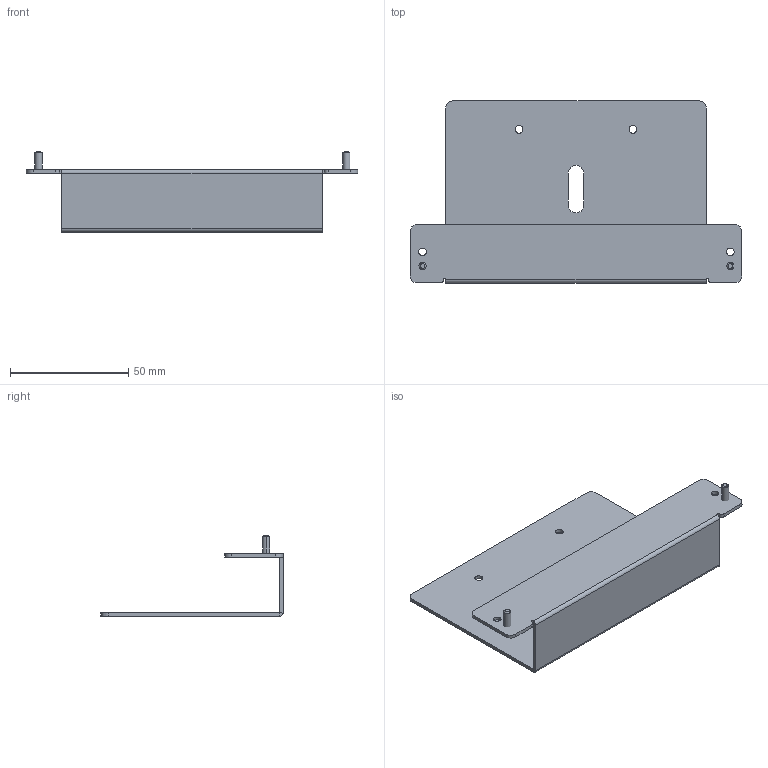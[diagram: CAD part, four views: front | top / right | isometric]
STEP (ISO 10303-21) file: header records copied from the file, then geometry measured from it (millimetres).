
FILE_DESCRIPTION((''),'2;1');
FILE_NAME('98W72B-H6-SXT-CAMERA-STAND-3-_1_ASM','2024-07-29T',('As06895'),(''),'CREO PARAMETRIC BY PTC INC, 2015080','CREO PARAMETRIC BY PTC INC, 2015080','');
FILE_SCHEMA(('AUTOMOTIVE_DESIGN { 1 0 10303 214 1 1 1 1 }'));
Length unit declared in the file: millimetre
Products named in the file (5): 98W72B-H6-SXT-CAMERA-STAND-3__1; XIAO-DING_1_1_2_1; XIAO-DING_1_1_2_2; XIAO-DING_1_1_2_ASM; 98W72B-H6-SXT-CAMERA-STAND-3-_1_ASM
Assembly tree (4 placements, depth 3):
  98W72B-H6-SXT-CAMERA-STAND-3-_1_ASM
    98W72B-H6-SXT-CAMERA-STAND-3__1
    XIAO-DING_1_1_2_ASM
      XIAO-DING_1_1_2_1
      XIAO-DING_1_1_2_2
Bounding box: 139.9 x 76.9 x 34 mm (x, y, z)
Volume: 21493.2 mm3; surface area: 29605.5 mm2
Topology: 3 solids, 3 shells, 56 faces, 130 edges, 80 vertices
Faces by surface type: plane 26, cylinder 26, cone 4
Entity records: 2140 total; most frequent: DIRECTION 320, CARTESIAN_POINT 289, ORIENTED_EDGE 260, EDGE_CURVE 130, AXIS2_PLACEMENT_3D 123, VERTEX_POINT 80, PROPERTY_DEFINITION 79, REPRESENTATION 76
